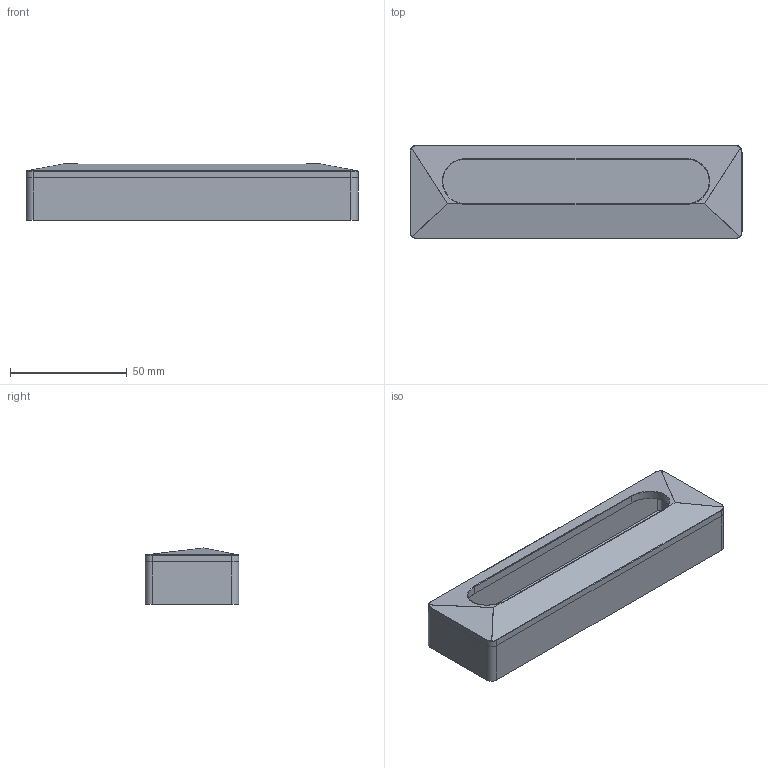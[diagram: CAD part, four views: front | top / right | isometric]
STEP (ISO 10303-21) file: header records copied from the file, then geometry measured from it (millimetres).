
FILE_DESCRIPTION (( 'STEP AP203' ), '1' );
FILE_NAME ('HP-001-²Õ¦X.STEP', '2015-11-18T07:35:09', ( '' ), ( '' ), 'SwSTEP 2.0', 'SolidWorks 2014', '' );
FILE_SCHEMA (( 'CONFIG_CONTROL_DESIGN' ));
Length unit declared in the file: millimetre
Products named in the file (1): HP-001-組合
Bounding box: 142 x 40 x 24 mm (x, y, z)
Volume: 29584.5 mm3; surface area: 33966.4 mm2
Topology: 2 solids, 2 shells, 92 faces, 226 edges, 136 vertices
Faces by surface type: cylinder 42, plane 30, bspline 12, cone 4, sphere 4
Entity records: 2995 total; most frequent: CARTESIAN_POINT 857, ORIENTED_EDGE 444, DIRECTION 430, EDGE_CURVE 222, AXIS2_PLACEMENT_3D 166, VERTEX_POINT 136, EDGE_LOOP 100, LINE 98
